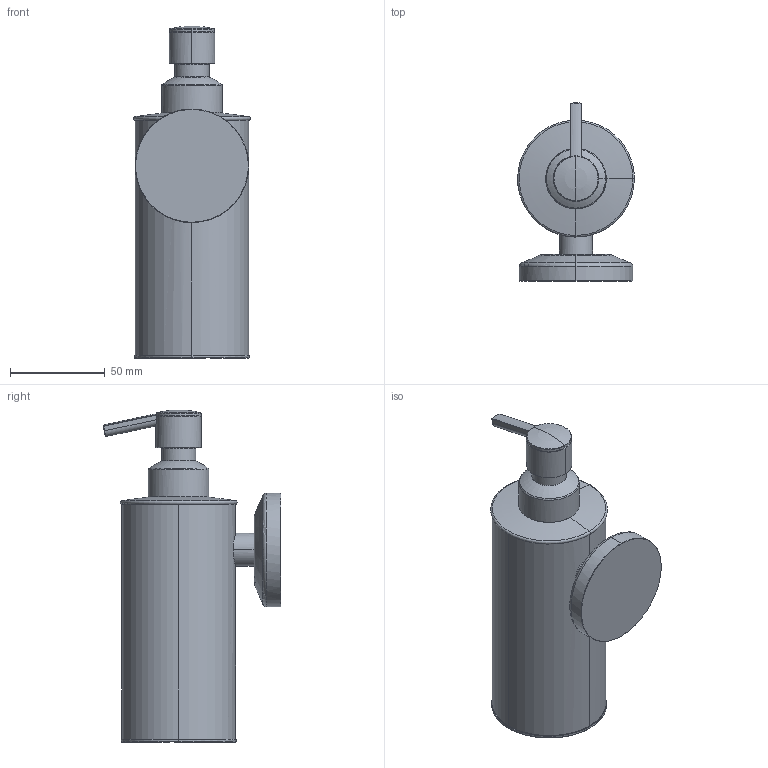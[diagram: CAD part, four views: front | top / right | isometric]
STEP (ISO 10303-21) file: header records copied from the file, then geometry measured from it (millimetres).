
FILE_DESCRIPTION(('THIS FILE CONTAINS SOME STEP INSTANCES'),'1');
FILE_NAME('sta_011.stp','2015-11-30T 8:53:25',('UNDEFINED'),('UNDEFINED'),'T-FLEX CAD STEP converter','T-FLEX CAD','');
FILE_SCHEMA(('CONFIG_CONTROL_DESIGN'));
Length unit declared in the file: metre
Products named in the file (1): 3D 鐨飹懤艜_6
Bounding box: 61.69 x 93.96 x 175.37 mm (x, y, z)
Volume: 415543.4 mm3; surface area: 45142.2 mm2
Topology: 1 solids, 2 shells, 100 faces, 214 edges, 122 vertices
Faces by surface type: cylinder 26, cone 25, plane 22, torus 14, bspline 11, sphere 2
Entity records: 5303 total; most frequent: CARTESIAN_POINT 3502, ORIENTED_EDGE 424, DIRECTION 294, EDGE_CURVE 212, VERTEX_POINT 122, AXIS2_PLACEMENT_3D 112, EDGE_LOOP 106, ADVANCED_FACE 100
